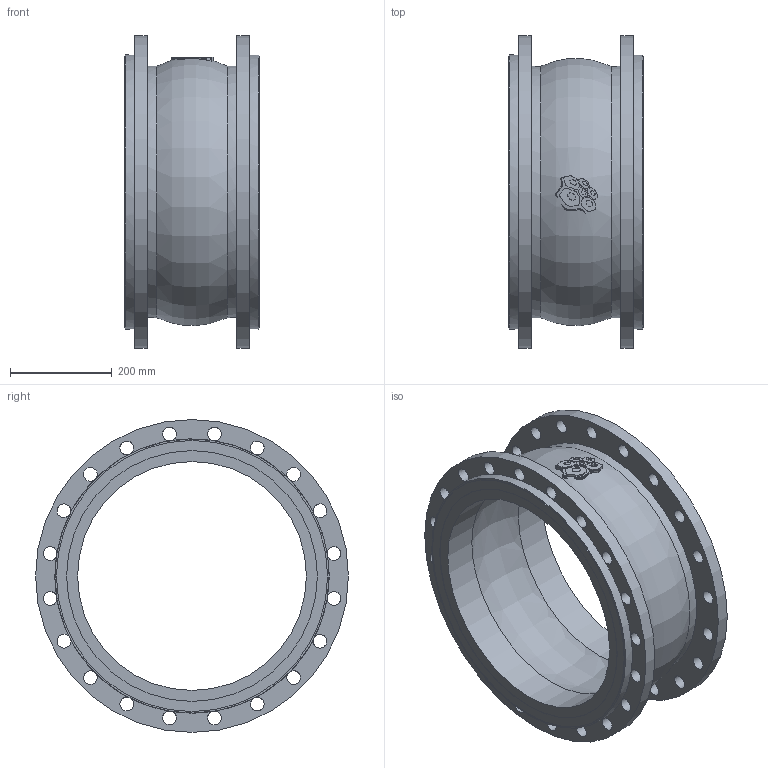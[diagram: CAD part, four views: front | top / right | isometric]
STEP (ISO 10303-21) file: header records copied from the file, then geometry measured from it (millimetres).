
FILE_DESCRIPTION(('STEP AP203'), '1');
FILE_NAME('3D_500-450-EPDM-FF', '', ('UNSPECIFIED'), ('UNSPECIFIED'), 'C3D Converter', 'C3D Toolkit', '');
FILE_SCHEMA(('CONFIG_CONTROL_DESIGN'));
Length unit declared in the file: millimetre
Bounding box: 265 x 615 x 615 mm (x, y, z)
Volume: 15163214.9 mm3; surface area: 1375186.7 mm2
Topology: 1 solids, 1 shells, 931 faces, 2895 edges, 1948 vertices
Faces by surface type: plane 871, cylinder 52, torus 8
Full cylindrical faces by diameter (mm): 27 x40, 450 x2, 493 x2, 495 x2, 533 x2, 539 x2, 615 x2
Entity records: 41577 total; most frequent: CARTESIAN_POINT 9641, ORIENTED_EDGE 5682, DIRECTION 4216, EDGE_CURVE 2841, VERTEX_POINT 1948, LINE 1706, VECTOR 1706, AXIS2_PLACEMENT_3D 1255
